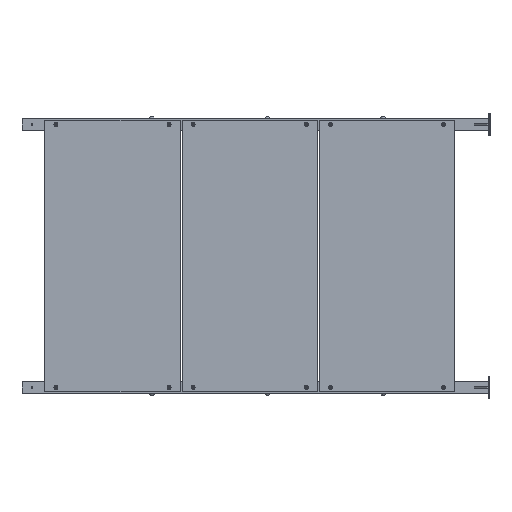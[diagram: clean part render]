
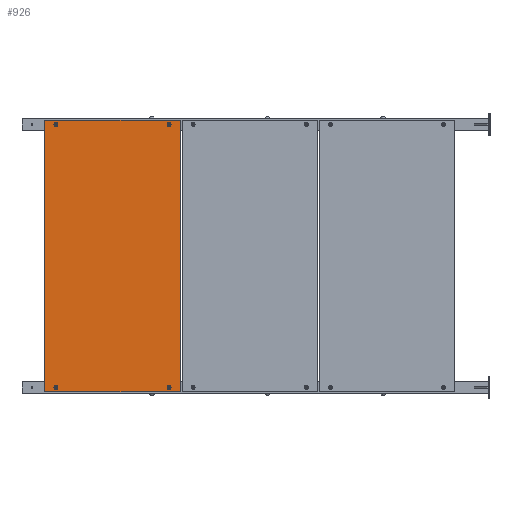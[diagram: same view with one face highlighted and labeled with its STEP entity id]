
A CAD part, left-side view. The second image highlights one B-rep face of the part: STEP entity #926.
In plain terms, the highlighted planar face has unit normal (-1, 0, 0) as drawn and (0, 0, -1) by its records, which use the part's own axes.
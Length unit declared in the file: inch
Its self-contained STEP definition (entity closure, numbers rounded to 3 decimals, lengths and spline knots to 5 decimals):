
#73 = VERTEX_POINT ( 'NONE', #8011 ) ;
#104 = EDGE_LOOP ( 'NONE', ( #10748, #6387, #6699, #1387 ) ) ;
#371 = CIRCLE ( 'NONE', #10509, 0.1425 ) ;
#486 = EDGE_CURVE ( 'NONE', #73, #73, #371, .T. ) ;
#611 = EDGE_CURVE ( 'NONE', #818, #10904, #5130, .T. ) ;
#686 = CARTESIAN_POINT ( 'NONE',  ( -23.25, 10., 0. ) ) ;
#801 = CARTESIAN_POINT ( 'NONE',  ( 23.25, -10., 0. ) ) ;
#818 = VERTEX_POINT ( 'NONE', #4172 ) ;
#825 = VERTEX_POINT ( 'NONE', #2725 ) ;
#856 = CARTESIAN_POINT ( 'NONE',  ( 24., 11.95, 0. ) ) ;
#923 = DIRECTION ( 'NONE',  ( 0., 0., 1. ) ) ;
#926 = ADVANCED_FACE ( 'NONE', ( #11351, #6858, #10453, #2411, #9635 ), #8738, .F. ) ;
#1144 = DIRECTION ( 'NONE',  ( 0., 0., -1. ) ) ;
#1318 = DIRECTION ( 'NONE',  ( 1., 0., 0. ) ) ;
#1387 = ORIENTED_EDGE ( 'NONE', *, *, #611, .F. ) ;
#1509 = VECTOR ( 'NONE', #8708, 39.37008 ) ;
#1625 = DIRECTION ( 'NONE',  ( -1., 0., 0. ) ) ;
#1768 = VERTEX_POINT ( 'NONE', #4431 ) ;
#2246 = VECTOR ( 'NONE', #1625, 39.37008 ) ;
#2301 = CARTESIAN_POINT ( 'NONE',  ( -24., -11.95, 0. ) ) ;
#2353 = DIRECTION ( 'NONE',  ( 0., -1., 0. ) ) ;
#2393 = CIRCLE ( 'NONE', #8951, 0.1425 ) ;
#2411 = FACE_BOUND ( 'NONE', #11059, .T. ) ;
#2698 = EDGE_CURVE ( 'NONE', #7426, #7426, #10957, .T. ) ;
#2725 = CARTESIAN_POINT ( 'NONE',  ( 23.1075, 10., 0. ) ) ;
#3089 = EDGE_CURVE ( 'NONE', #10904, #4979, #6188, .T. ) ;
#3347 = LINE ( 'NONE', #2301, #5798 ) ;
#3511 = DIRECTION ( 'NONE',  ( 0., 0., 1. ) ) ;
#4038 = ORIENTED_EDGE ( 'NONE', *, *, #486, .F. ) ;
#4057 = EDGE_LOOP ( 'NONE', ( #7462 ) ) ;
#4080 = CARTESIAN_POINT ( 'NONE',  ( 24., -11.95, 0. ) ) ;
#4172 = CARTESIAN_POINT ( 'NONE',  ( -24., -11.95, 0. ) ) ;
#4336 = DIRECTION ( 'NONE',  ( 0., 0., 1. ) ) ;
#4431 = CARTESIAN_POINT ( 'NONE',  ( -24., 11.95, 0. ) ) ;
#4704 = CARTESIAN_POINT ( 'NONE',  ( 0., 0., 0. ) ) ;
#4979 = VERTEX_POINT ( 'NONE', #11398 ) ;
#5106 = DIRECTION ( 'NONE',  ( -1., 0., 0. ) ) ;
#5130 = LINE ( 'NONE', #9542, #1509 ) ;
#5196 = AXIS2_PLACEMENT_3D ( 'NONE', #686, #3511, #10762 ) ;
#5318 = DIRECTION ( 'NONE',  ( 0., 1., 0. ) ) ;
#5798 = VECTOR ( 'NONE', #2353, 39.37008 ) ;
#6122 = EDGE_CURVE ( 'NONE', #825, #825, #2393, .T. ) ;
#6188 = LINE ( 'NONE', #9790, #10381 ) ;
#6387 = ORIENTED_EDGE ( 'NONE', *, *, #11513, .F. ) ;
#6477 = CARTESIAN_POINT ( 'NONE',  ( 23.1075, -10., 0. ) ) ;
#6499 = ORIENTED_EDGE ( 'NONE', *, *, #6122, .T. ) ;
#6580 = VERTEX_POINT ( 'NONE', #9235 ) ;
#6699 = ORIENTED_EDGE ( 'NONE', *, *, #3089, .F. ) ;
#6719 = EDGE_LOOP ( 'NONE', ( #4038 ) ) ;
#6858 = FACE_BOUND ( 'NONE', #4057, .T. ) ;
#7018 = LINE ( 'NONE', #856, #2246 ) ;
#7426 = VERTEX_POINT ( 'NONE', #6477 ) ;
#7462 = ORIENTED_EDGE ( 'NONE', *, *, #2698, .F. ) ;
#7904 = EDGE_CURVE ( 'NONE', #6580, #6580, #10457, .T. ) ;
#8011 = CARTESIAN_POINT ( 'NONE',  ( -23.1075, -10., 0. ) ) ;
#8668 = AXIS2_PLACEMENT_3D ( 'NONE', #801, #10696, #10572 ) ;
#8708 = DIRECTION ( 'NONE',  ( 1., 0., 0. ) ) ;
#8738 = PLANE ( 'NONE',  #11101 ) ;
#8951 = AXIS2_PLACEMENT_3D ( 'NONE', #9631, #4336, #5106 ) ;
#8992 = EDGE_LOOP ( 'NONE', ( #11228 ) ) ;
#9235 = CARTESIAN_POINT ( 'NONE',  ( -23.1075, 10., 0. ) ) ;
#9542 = CARTESIAN_POINT ( 'NONE',  ( 24., -11.95, 0. ) ) ;
#9631 = CARTESIAN_POINT ( 'NONE',  ( 23.25, 10., 0. ) ) ;
#9635 = FACE_OUTER_BOUND ( 'NONE', #104, .T. ) ;
#9790 = CARTESIAN_POINT ( 'NONE',  ( 24., -11.95, 0. ) ) ;
#10381 = VECTOR ( 'NONE', #5318, 39.37008 ) ;
#10453 = FACE_BOUND ( 'NONE', #8992, .T. ) ;
#10457 = CIRCLE ( 'NONE', #5196, 0.1425 ) ;
#10509 = AXIS2_PLACEMENT_3D ( 'NONE', #11035, #1144, #1318 ) ;
#10572 = DIRECTION ( 'NONE',  ( -1., 0., 0. ) ) ;
#10696 = DIRECTION ( 'NONE',  ( 0., 0., -1. ) ) ;
#10748 = ORIENTED_EDGE ( 'NONE', *, *, #11297, .F. ) ;
#10762 = DIRECTION ( 'NONE',  ( 1., 0., 0. ) ) ;
#10823 = DIRECTION ( 'NONE',  ( 1., 0., 0. ) ) ;
#10904 = VERTEX_POINT ( 'NONE', #4080 ) ;
#10957 = CIRCLE ( 'NONE', #8668, 0.1425 ) ;
#11035 = CARTESIAN_POINT ( 'NONE',  ( -23.25, -10., 0. ) ) ;
#11059 = EDGE_LOOP ( 'NONE', ( #6499 ) ) ;
#11101 = AXIS2_PLACEMENT_3D ( 'NONE', #4704, #923, #10823 ) ;
#11228 = ORIENTED_EDGE ( 'NONE', *, *, #7904, .T. ) ;
#11297 = EDGE_CURVE ( 'NONE', #1768, #818, #3347, .T. ) ;
#11351 = FACE_BOUND ( 'NONE', #6719, .T. ) ;
#11398 = CARTESIAN_POINT ( 'NONE',  ( 24., 11.95, 0. ) ) ;
#11513 = EDGE_CURVE ( 'NONE', #4979, #1768, #7018, .T. ) ;
